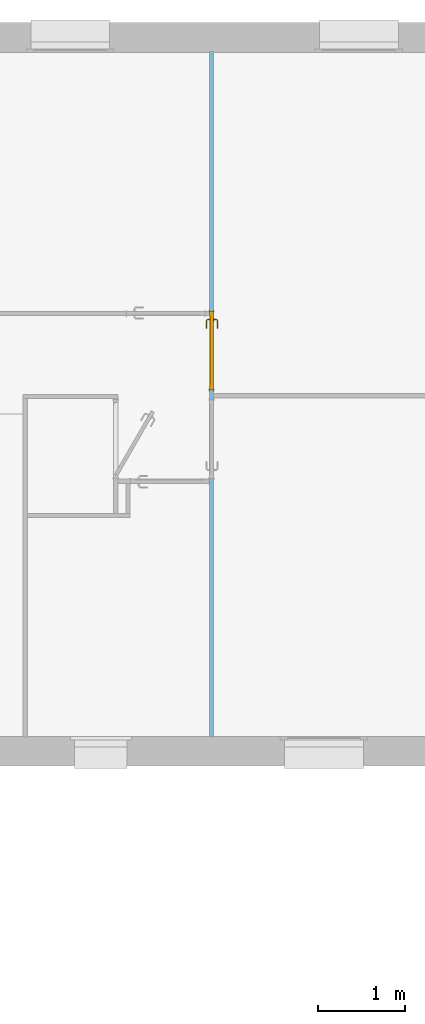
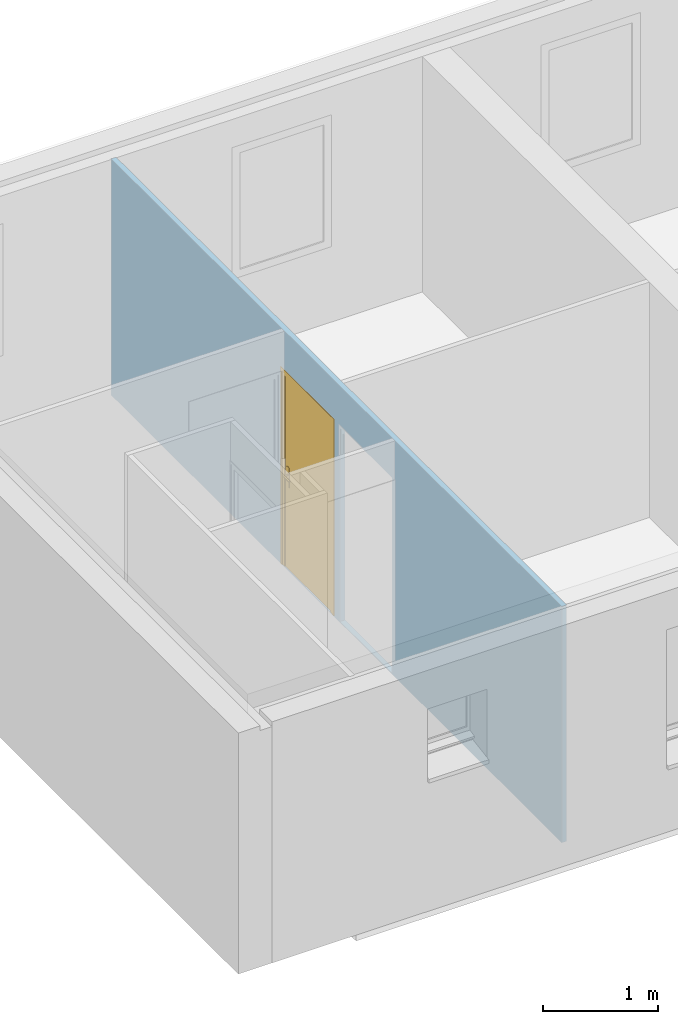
# One storey, part 6 of 13: 1 door, 3 openings, plus 1 element that does not belong to this part.
"""IFC2X3 building model written with IfcOpenShell, lengths in metres."""

from ifc_helpers import new_model, entity, si_unit, converted_unit, derived_unit, direction, frame, frame_2d, origin, place, context, subcontext, project, spatial, rectangle, extrude, faceted_brep, source, transform, mapped, material, material_list, layer, layer_set, layer_usage, type_object, type_shapes, element, fill, save


model = new_model("IFC2X3")

# Units and contexts
model_context = context("Model", 3, precision=1e-05, world=origin(), true_north=direction((6.12303176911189e-17, 1.0)))
context_of_model = context(None, 3, precision=1e-05, world=origin(), true_north=direction((6.12303176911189e-17, 1.0)))
body_context = subcontext(model_context, "Body", "Model", "MODEL_VIEW")
ifc_project = project(units=[si_unit("LENGTHUNIT", "METRE"), si_unit("AREAUNIT", "SQUARE_METRE"), si_unit("VOLUMEUNIT", "CUBIC_METRE"), converted_unit("PLANEANGLEUNIT", "DEGREE", entity("IfcRatioMeasure", 0.0174532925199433), si_unit("PLANEANGLEUNIT", "RADIAN"), dimensions=[0, 0, 0, 0, 0, 0, 0]), si_unit("MASSUNIT", "GRAM", prefix="KILO"), si_unit("TIMEUNIT", "SECOND"), si_unit("FREQUENCYUNIT", "HERTZ"), si_unit("THERMODYNAMICTEMPERATUREUNIT", "DEGREE_CELSIUS"), derived_unit("THERMALTRANSMITTANCEUNIT", [(si_unit("MASSUNIT", "GRAM", prefix="KILO"), 1), (si_unit("THERMODYNAMICTEMPERATUREUNIT", "KELVIN"), -1), (si_unit("TIMEUNIT", "SECOND"), -3)]), derived_unit("VOLUMETRICFLOWRATEUNIT", [(si_unit("LENGTHUNIT", "METRE"), 3), (si_unit("TIMEUNIT", "SECOND"), -1)]), si_unit("ELECTRICCURRENTUNIT", "AMPERE"), si_unit("ELECTRICVOLTAGEUNIT", "VOLT"), si_unit("POWERUNIT", "WATT"), si_unit("FORCEUNIT", "NEWTON", prefix="KILO"), si_unit("ILLUMINANCEUNIT", "LUX"), si_unit("LUMINOUSFLUXUNIT", "LUMEN"), si_unit("LUMINOUSINTENSITYUNIT", "CANDELA"), derived_unit("USERDEFINED", [(si_unit("MASSUNIT", "GRAM", prefix="KILO"), -1), (si_unit("LENGTHUNIT", "METRE"), -2), (si_unit("TIMEUNIT", "SECOND"), 3), (si_unit("LUMINOUSFLUXUNIT", "LUMEN"), 1)]), derived_unit("LINEARVELOCITYUNIT", [(si_unit("LENGTHUNIT", "METRE"), 1), (si_unit("TIMEUNIT", "SECOND"), -1)]), si_unit("PRESSUREUNIT", "PASCAL"), derived_unit("USERDEFINED", [(si_unit("LENGTHUNIT", "METRE"), -2), (si_unit("MASSUNIT", "GRAM", prefix="KILO"), 1), (si_unit("TIMEUNIT", "SECOND"), -2)])], contexts=[model_context, context_of_model])

# Site, building, storey
site_placement = place(None, origin())
site = spatial("IfcSite", under=ifc_project, at=site_placement, Name="Surface", CompositionType="ELEMENT")
building_placement = place(site_placement, origin())
building = spatial("IfcBuilding", under=site, at=building_placement, CompositionType="ELEMENT")
storey_placement = place(building_placement, frame((0.0, 0.0, 2.74)))
storey = spatial("IfcBuildingStorey", under=building, at=storey_placement, Name="Plan étage", CompositionType="ELEMENT", Elevation=2.74)

# Wall, openings, door
ifc_material_1 = material(Name="Maçonnerie - Isolant(1)")
ifc_layer = layer(ifc_material_1, 0.05)
ifc_layer_set = layer_set([ifc_layer], Name="Mur de base:Int. plâtre 50 mm")
ifc_layer_usage = layer_usage(ifc_layer_set, "AXIS2", "NEGATIVE", 0.025)
wall_type = type_object("IfcWallType", Name="Mur de base:Int. plâtre 50 mm", PredefinedType="STANDARD", material=ifc_layer_set)
wall_placement = place(storey_placement, frame((-8.17108881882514, -2.48574421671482, -0.00999999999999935), z_axis=(0.0, 0.0, 1.0), x_axis=(0.0, 1.0, 0.0)))
wall = element("IfcWallStandardCase", 1, at=wall_placement, inside=storey, type_object=wall_type, material=ifc_layer_usage, Name="Mur de base:Int. plâtre 50 mm", ObjectType="Mur de base:Int. plâtre 50 mm", context=body_context, shape_type="SweptSolid", body=[
    extrude(rectangle(XDim=7.84000000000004, YDim=0.0499999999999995, at=frame_2d((3.92000000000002, 0.0), x_axis=(-1.0, 0.0))), origin(), (0.0, 0.0, 1.0), 2.51),
])
opening_1_placement = place(wall_placement, origin())
element("IfcOpeningElement", 2, at=opening_1_placement, cuts=wall, Name="Mur de base:Int. plâtre 50 mm", ObjectType="Opening", context=body_context, shape_type="SweptSolid", body=[
    extrude(rectangle(XDim=2.075, YDim=0.05, at=frame_2d((0.0, 3.33066907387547e-16), x_axis=(0.0, 1.0))), frame((2.92500000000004, 0.0274999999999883, 1.0475), z_axis=(0.0, 1.0, 0.0), x_axis=(1.0, 0.0, 0.0)), (0.0, 0.0, 1.0), 0.9),
])
opening_2_placement = place(wall_placement, frame((3.85750000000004, 0.025, 0.00999999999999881)))
element("IfcOpeningElement", 3, at=opening_2_placement, cuts=wall, Name="Int. Simple:PP (0.83m x 2.04m):1", ObjectType="Opening", context=body_context, shape_type="SweptSolid", body=[
    extrude(rectangle(XDim=2.075, YDim=0.9, at=frame_2d((1.0375, 0.45), x_axis=(1.0, 0.0))), frame((0.0, 0.0, 0.0), z_axis=(0.0, -1.0, 0.0), x_axis=(0.0, 0.0, 1.0)), (0.0, 0.0, 1.0), 0.05),
])
opening_3_placement = place(wall_placement, frame((4.87000000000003, 0.025, 0.00999999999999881)))
opening_3 = element("IfcOpeningElement", 4, at=opening_3_placement, cuts=wall, Name="Int. Simple:PP (0.83m x 2.04m):1", ObjectType="Opening", context=body_context, shape_type="SweptSolid", body=[
    extrude(rectangle(XDim=2.075, YDim=0.9, at=frame_2d((1.0375, 0.45), x_axis=(1.0, 0.0))), frame((0.0, 0.0, 0.0), z_axis=(0.0, -1.0, 0.0), x_axis=(0.0, 0.0, 1.0)), (0.0, 0.0, 1.0), 0.05),
])
ifc_material_2 = material(Name="Finition Peinture - Blanc satiné")
ifc_material_3 = material(Name="Bois - Panneau de porte")
ifc_material_4 = material(Name="Bois - Cadre de porte")
ifc_material_list_1 = material_list([ifc_material_2, ifc_material_3, ifc_material_4])
ifc_material_list_2 = material_list([ifc_material_2, ifc_material_3, ifc_material_4])
door_style = type_object("IfcDoorStyle", Name="PP (0.83m x 2.04m)", ConstructionType="NOTDEFINED", OperationType="SINGLE_SWING_RIGHT", ParameterTakesPrecedence=False, Sizeable=False, material=ifc_material_list_2)
shared_shape = source(origin(), body_context, "Body", "Brep", [
    faceted_brep([(0.895000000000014, -0.00500000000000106, 0.870000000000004), (0.895000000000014, -0.00500000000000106, 1.08), (0.885352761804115, -0.00500000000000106, 1.08399601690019), (0.875000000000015, -0.00500000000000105, 1.08535898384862), (0.864647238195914, -0.00500000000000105, 1.08399601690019), (0.855000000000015, -0.00500000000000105, 1.08), (0.855000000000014, -0.00500000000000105, 0.870000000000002), (0.864647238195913, -0.00500000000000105, 0.866003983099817), (0.875000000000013, -0.00500000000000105, 0.86464101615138), (0.885352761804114, -0.00500000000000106, 0.866003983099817), (0.895000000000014, 0.0, 1.08), (0.895000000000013, 0.0, 0.870000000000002), (0.885352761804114, 0.0, 0.866003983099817), (0.875000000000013, 0.0, 0.86464101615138), (0.864647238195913, 0.0, 0.866003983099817), (0.855000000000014, 0.0, 0.870000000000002), (0.855000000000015, 0.0, 1.08), (0.864647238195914, 0.0, 1.08399601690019), (0.875000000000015, 0.0, 1.08535898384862), (0.885352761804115, 0.0, 1.08399601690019)], [[[0, 1, 2, 3, 4, 5, 6, 7, 8, 9]], [[10, 11, 12, 13, 14, 15, 16, 17, 18, 19]], [[9, 12, 11, 0]], [[8, 13, 12, 9]], [[7, 14, 13, 8]], [[7, 6, 15, 14]], [[15, 6, 5, 16]], [[4, 17, 16, 5]], [[3, 18, 17, 4]], [[2, 19, 18, 3]], [[2, 1, 10, 19]], [[11, 10, 1, 0]]]),
    faceted_brep([(0.895000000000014, 0.0399999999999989, 0.870000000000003), (0.895000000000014, 0.0399999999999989, 1.08), (0.885352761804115, 0.0399999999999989, 1.08399601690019), (0.875000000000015, 0.0399999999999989, 1.08535898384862), (0.864647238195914, 0.0399999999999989, 1.08399601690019), (0.855000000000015, 0.0399999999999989, 1.08), (0.855000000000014, 0.0399999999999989, 0.870000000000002), (0.864647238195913, 0.0399999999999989, 0.866003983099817), (0.875000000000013, 0.0399999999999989, 0.86464101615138), (0.885352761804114, 0.0399999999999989, 0.866003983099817), (0.875000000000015, 0.0449999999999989, 1.08535898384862), (0.885352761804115, 0.0449999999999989, 1.08399601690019), (0.895000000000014, 0.0449999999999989, 1.08), (0.895000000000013, 0.0449999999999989, 0.870000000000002), (0.885352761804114, 0.0449999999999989, 0.866003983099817), (0.875000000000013, 0.0449999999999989, 0.86464101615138), (0.864647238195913, 0.0449999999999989, 0.866003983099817), (0.855000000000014, 0.0449999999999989, 0.870000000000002), (0.855000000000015, 0.0449999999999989, 1.08), (0.864647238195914, 0.0449999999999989, 1.08399601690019)], [[[0, 1, 2, 3, 4, 5, 6, 7, 8, 9]], [[10, 11, 12, 13, 14, 15, 16, 17, 18, 19]], [[4, 19, 18, 5]], [[3, 10, 19, 4]], [[2, 11, 10, 3]], [[2, 1, 12, 11]], [[13, 12, 1, 0]], [[9, 14, 13, 0]], [[8, 15, 14, 9]], [[7, 16, 15, 8]], [[7, 6, 17, 16]], [[17, 6, 5, 18]]]),
    faceted_brep([(0.872974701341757, -0.0050000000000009, 1.00778044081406), (0.877025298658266, -0.00500000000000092, 1.00778044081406), (0.881000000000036, -0.00500000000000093, 1.00699999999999), (0.881000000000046, -0.00500000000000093, 0.992999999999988), (0.877025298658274, -0.00500000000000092, 0.99221955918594), (0.872974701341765, -0.0050000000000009, 0.992219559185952), (0.868999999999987, -0.00500000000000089, 0.993000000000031), (0.868999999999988, -0.00500000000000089, 1.007), (0.877025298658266, -0.0310045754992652, 1.00778044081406), (0.881000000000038, -0.0326509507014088, 1.007), (0.872974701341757, -0.0293267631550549, 1.00778044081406), (0.859298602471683, -0.0430028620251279, 1.00778044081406), (0.860976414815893, -0.0470534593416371, 1.00778044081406), (0.868999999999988, -0.0276803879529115, 1.007), (0.868999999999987, -0.0276803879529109, 0.993000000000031), (0.872974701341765, -0.0293267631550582, 0.992219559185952), (0.877025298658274, -0.0310045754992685, 0.99221955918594), (0.860976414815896, -0.047053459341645, 0.99221955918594), (0.859298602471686, -0.0430028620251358, 0.992219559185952), (0.881000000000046, -0.0326509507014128, 0.992999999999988), (0.862622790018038, -0.0510281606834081, 1.007), (0.85765222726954, -0.0390281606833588, 1.007), (0.857652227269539, -0.0390281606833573, 0.993000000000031), (0.862622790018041, -0.0510281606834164, 0.992999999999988), (0.774981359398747, -0.0510281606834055, 1.007), (0.774981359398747, -0.0470534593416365, 1.00778044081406), (0.774981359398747, -0.0430028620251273, 1.00778044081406), (0.774981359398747, -0.0390281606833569, 1.00699999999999), (0.774981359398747, -0.0390281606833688, 0.993000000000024), (0.774981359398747, -0.0430028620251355, 0.992219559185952), (0.774981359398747, -0.0470534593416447, 0.99221955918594), (0.774981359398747, -0.0510281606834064, 0.992999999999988), (0.81713998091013, -0.045028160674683, 1.0078786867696), (0.822692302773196, -0.051028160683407, 1.007), (0.816316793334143, -0.039028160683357, 1.007), (0.816316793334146, -0.0390281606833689, 0.993000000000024), (0.817139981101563, -0.0450281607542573, 0.992121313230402), (0.822692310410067, -0.0510281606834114, 0.992999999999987)], [[[0, 1, 2, 3, 4, 5, 6, 7]], [[2, 1, 8, 9]], [[1, 0, 10, 11, 12, 8]], [[0, 7, 13, 10]], [[14, 13, 7, 6]], [[5, 15, 14, 6]], [[5, 4, 16, 17, 18, 15]], [[3, 19, 16, 4]], [[9, 19, 3, 2]], [[9, 8, 12, 20]], [[10, 13, 21, 11]], [[22, 21, 13, 14]], [[14, 15, 18, 22]], [[16, 19, 23, 17]], [[20, 23, 19, 9]], [[24, 25, 26, 27, 28, 29, 30, 31]], [[32, 25, 33]], [[33, 25, 24]], [[33, 20, 12]], [[11, 34, 32]], [[34, 11, 21]], [[27, 26, 34]], [[32, 26, 25]], [[32, 34, 26]], [[32, 33, 12]], [[11, 32, 12]], [[21, 22, 35, 28, 27, 34]], [[36, 29, 35]], [[30, 36, 37]], [[18, 35, 22]], [[29, 28, 35]], [[30, 37, 31]], [[37, 17, 23]], [[36, 17, 37]], [[36, 18, 17]], [[36, 35, 18]], [[29, 36, 30]], [[23, 20, 33, 24, 31, 37]]]),
    faceted_brep([(0.872974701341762, 0.0449999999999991, 0.992219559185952), (0.877025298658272, 0.0449999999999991, 0.99221955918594), (0.881000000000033, 0.044999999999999, 0.992999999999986), (0.881000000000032, 0.044999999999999, 1.007), (0.877025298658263, 0.0449999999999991, 1.00778044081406), (0.872974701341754, 0.0449999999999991, 1.00778044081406), (0.868999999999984, 0.0449999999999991, 1.007), (0.868999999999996, 0.0449999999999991, 0.993000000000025), (0.868999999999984, 0.067485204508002, 1.007), (0.868999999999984, 0.0674852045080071, 0.993000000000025), (0.872974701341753, 0.0691315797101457, 1.00778044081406), (0.877025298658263, 0.070809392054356, 1.00778044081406), (0.860838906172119, 0.0869957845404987, 1.00778044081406), (0.859161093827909, 0.0829451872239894, 1.00778044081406), (0.881000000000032, 0.0724557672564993, 1.007), (0.881000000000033, 0.0724557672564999, 0.992999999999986), (0.877025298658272, 0.0708093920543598, 0.99221955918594), (0.872974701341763, 0.0691315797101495, 0.992219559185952), (0.859161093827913, 0.0829451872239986, 0.992219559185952), (0.860838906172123, 0.0869957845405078, 0.99221955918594), (0.857514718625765, 0.0789704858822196, 1.007), (0.857514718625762, 0.0789704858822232, 0.993000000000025), (0.862485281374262, 0.0909704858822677, 1.007), (0.862485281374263, 0.0909704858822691, 0.992999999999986), (0.77495421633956, 0.0829451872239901, 1.00778044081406), (0.77495421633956, 0.0869957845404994, 1.00778044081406), (0.77495421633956, 0.0909704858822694, 1.007), (0.77495421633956, 0.0909704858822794, 0.992999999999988), (0.77495421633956, 0.086995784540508, 0.99221955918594), (0.77495421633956, 0.0829451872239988, 0.992219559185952), (0.77495421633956, 0.0789704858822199, 0.993000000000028), (0.77495421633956, 0.0789704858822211, 1.007), (0.816234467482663, 0.0789704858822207, 1.007), (0.816234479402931, 0.0789704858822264, 0.993000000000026), (0.817057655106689, 0.0849704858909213, 1.0078786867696), (0.822554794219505, 0.0909704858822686, 1.007), (0.822554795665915, 0.0909704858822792, 0.992999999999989), (0.817057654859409, 0.0849704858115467, 0.992121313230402)], [[[0, 1, 2, 3, 4, 5, 6, 7]], [[8, 9, 7, 6]], [[5, 10, 8, 6]], [[5, 4, 11, 12, 13, 10]], [[3, 14, 11, 4]], [[14, 3, 2, 15]], [[2, 1, 16, 15]], [[1, 0, 17, 18, 19, 16]], [[0, 7, 9, 17]], [[20, 21, 9, 8]], [[8, 10, 13, 20]], [[14, 22, 12, 11]], [[23, 22, 14, 15]], [[15, 16, 19, 23]], [[17, 9, 21, 18]], [[24, 25, 26, 27, 28, 29, 30, 31]], [[21, 20, 32, 31, 30, 33]], [[34, 24, 32]], [[25, 34, 35]], [[13, 32, 20]], [[24, 31, 32]], [[25, 35, 26]], [[35, 12, 22]], [[34, 12, 35]], [[34, 13, 12]], [[34, 32, 13]], [[24, 34, 25]], [[22, 23, 36, 27, 26, 35]], [[37, 28, 36]], [[36, 28, 27]], [[36, 23, 19]], [[18, 33, 37]], [[33, 18, 21]], [[30, 29, 33]], [[37, 29, 28]], [[37, 33, 29]], [[37, 36, 19]], [[18, 37, 19]]]),
    faceted_brep([(0.935000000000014, 0.04, 2.04), (0.935000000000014, 0.04, 0.0), (0.105000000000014, 0.04, 0.0), (0.105000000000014, 0.04, 2.04), (0.935000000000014, 0.0, 2.04), (0.105000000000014, 0.0, 2.04), (0.105000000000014, 0.0, 0.0), (0.935000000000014, 0.0, 0.0)], [[[0, 1, 2, 3]], [[4, 5, 6, 7]], [[3, 5, 4, 0]], [[2, 6, 5, 3]], [[1, 7, 6, 2]], [[0, 4, 7, 1]]]),
    faceted_brep([(0.970000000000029, 0.0, 0.0), (0.935000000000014, 0.0, 0.0), (0.935000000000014, 0.040000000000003, 0.0), (0.920000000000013, 0.040000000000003, 0.0), (0.920000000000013, 0.050000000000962, 0.0), (0.970000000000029, 0.050000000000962, 0.0), (0.970000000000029, 0.050000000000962, 2.07500000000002), (0.970000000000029, 0.0, 2.07500000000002), (0.920000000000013, 0.050000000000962, 2.025), (0.120000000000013, 0.050000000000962, 2.025), (0.120000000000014, 0.050000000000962, 0.0), (0.0699999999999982, 0.050000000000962, 0.0), (0.0699999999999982, 0.050000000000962, 2.07500000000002), (0.920000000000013, 0.040000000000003, 2.025), (0.935000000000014, 0.040000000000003, 2.04), (0.105000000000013, 0.040000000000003, 2.04), (0.105000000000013, 0.040000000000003, 0.0), (0.120000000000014, 0.040000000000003, 0.0), (0.120000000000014, 0.040000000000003, 2.025), (0.935000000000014, 0.0, 2.04), (0.069999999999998, 0.0, 2.07500000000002), (0.0699999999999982, 0.0, 0.0), (0.105000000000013, 0.0, 0.0), (0.105000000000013, 0.0, 2.04)], [[[0, 1, 2, 3, 4, 5]], [[5, 6, 7, 0]], [[4, 8, 9, 10, 11, 12, 6, 5]], [[3, 13, 8, 4]], [[2, 14, 15, 16, 17, 18, 13, 3]], [[1, 19, 14, 2]], [[0, 7, 20, 21, 22, 23, 19, 1]], [[12, 11, 21, 20]], [[21, 11, 10, 17, 16, 22]], [[18, 17, 10, 9]], [[23, 22, 16, 15]], [[6, 12, 20, 7]], [[13, 18, 9, 8]], [[19, 23, 15, 14]]]),
    faceted_brep([(0.955000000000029, 0.050000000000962, 0.0), (0.955000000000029, 0.055000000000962, 0.0), (0.985000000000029, 0.055000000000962, 0.0), (0.985000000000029, 0.050000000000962, 0.0), (0.985000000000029, 0.050000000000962, 2.09000000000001), (0.0550000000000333, 0.050000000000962, 2.09000000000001), (0.0550000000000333, 0.050000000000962, 0.0), (0.0850000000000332, 0.050000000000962, 0.0), (0.0850000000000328, 0.050000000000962, 2.06000000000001), (0.955000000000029, 0.050000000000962, 2.06000000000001), (0.985000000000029, 0.055000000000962, 2.09000000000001), (0.955000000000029, 0.055000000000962, 2.06000000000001), (0.0850000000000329, 0.055000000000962, 2.06000000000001), (0.0850000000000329, 0.055000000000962, 0.0), (0.055000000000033, 0.055000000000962, 0.0), (0.0550000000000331, 0.055000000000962, 2.09000000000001)], [[[0, 1, 2, 3]], [[3, 4, 5, 6, 7, 8, 9, 0]], [[2, 10, 4, 3]], [[1, 11, 12, 13, 14, 15, 10, 2]], [[0, 9, 11, 1]], [[7, 6, 14, 13]], [[8, 7, 13, 12]], [[15, 14, 6, 5]], [[10, 15, 5, 4]], [[9, 8, 12, 11]]]),
    faceted_brep([(0.985000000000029, -0.005, 0.0), (0.985000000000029, -0.005, 2.09000000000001), (0.0550000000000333, -0.005, 2.09000000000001), (0.0550000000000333, -0.005, 0.0), (0.0850000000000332, -0.005, 0.0), (0.0850000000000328, -0.005, 2.06000000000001), (0.955000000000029, -0.005, 2.06000000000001), (0.955000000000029, -0.005, 0.0), (0.985000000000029, 0.0, 0.0), (0.985000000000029, 0.0, 2.09000000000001), (0.955000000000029, 0.0, 0.0), (0.955000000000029, 0.0, 2.06000000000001), (0.0850000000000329, 0.0, 2.06000000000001), (0.0850000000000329, 0.0, 0.0), (0.055000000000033, 0.0, 0.0), (0.0550000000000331, 0.0, 2.09000000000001)], [[[0, 1, 2, 3, 4, 5, 6, 7]], [[8, 9, 1, 0]], [[10, 11, 12, 13, 14, 15, 9, 8]], [[7, 6, 11, 10]], [[5, 4, 13, 12]], [[15, 14, 3, 2]], [[9, 15, 2, 1]], [[6, 5, 12, 11]], [[4, 3, 14, 13]], [[7, 10, 8, 0]]]),
])
type_shapes(door_style, [shared_shape])
door_placement = place(opening_3_placement, frame((-0.970000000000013, -0.0500000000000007, 0.0)))
door = element("IfcDoor", 5, at=door_placement, inside=storey, type_object=door_style, material=ifc_material_list_1, Name="Int. Simple:PP (0.83m x 2.04m)", ObjectType="PP (0.83m x 2.04m)", OverallHeight=2.075, OverallWidth=0.9, context=body_context, shape_type="MappedRepresentation", body=[
    mapped(shared_shape, transform((0.0, 0.0, 0.0), scale=1.0)),
])
fill(opening_3, door)

save(model, "model.ifc")
